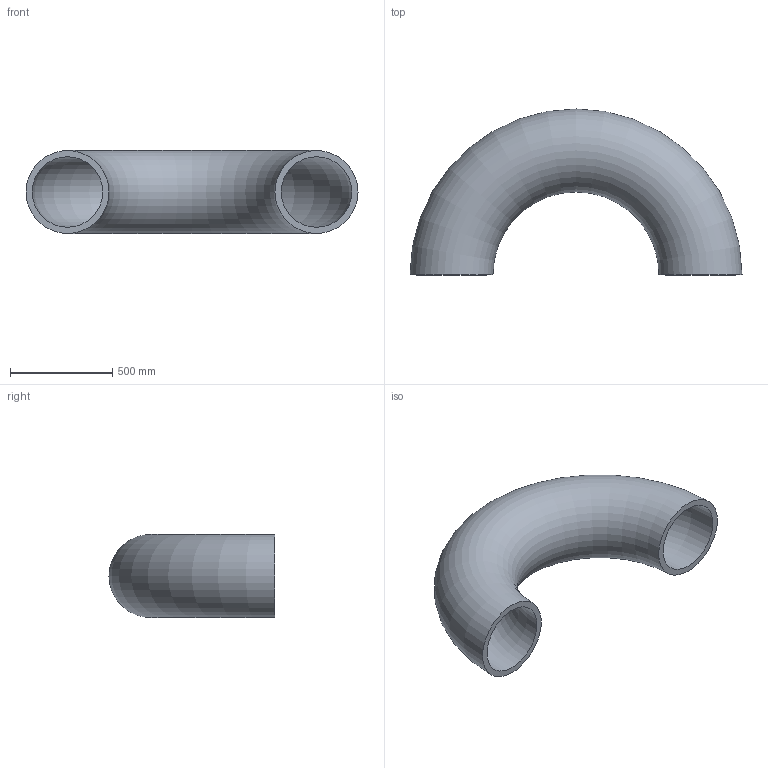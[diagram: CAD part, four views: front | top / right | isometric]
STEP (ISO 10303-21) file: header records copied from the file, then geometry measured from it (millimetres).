
FILE_DESCRIPTION(/* description */ (''),/* implementation_level */ '2;1');
FILE_NAME(/* name */ 'C:\Users\D\Documents\Inventor\HP\JIS\配管\エルボ ロング 180°\Sch120\Elbow180-long-400A-Sch120.stp',/* time_stamp */ '2022-06-14T14:56:36+09:00',/* author */ ('D'),/* organization */ (''),/* preprocessor_version */ 'ST-DEVELOPER v18',/* originating_system */ 'Autodesk Inventor 2020',/* authorisation */ '');
FILE_SCHEMA (('AUTOMOTIVE_DESIGN { 1 0 10303 214 3 1 1 }'));
Length unit declared in the file: millimetre
Products named in the file (1): Elbow-long-90-15A-SGP
Bounding box: 1625.6 x 812.8 x 406.4 mm (x, y, z)
Volume: 69809274.5 mm3; surface area: 4591303.1 mm2
Topology: 1 solids, 1 shells, 4 faces, 10 edges, 8 vertices
Faces by surface type: torus 2, plane 2
Entity records: 181 total; most frequent: DIRECTION 30, CARTESIAN_POINT 23, ORIENTED_EDGE 20, AXIS2_PLACEMENT_3D 15, CIRCLE 10, EDGE_CURVE 10, VERTEX_POINT 8, EDGE_LOOP 6
